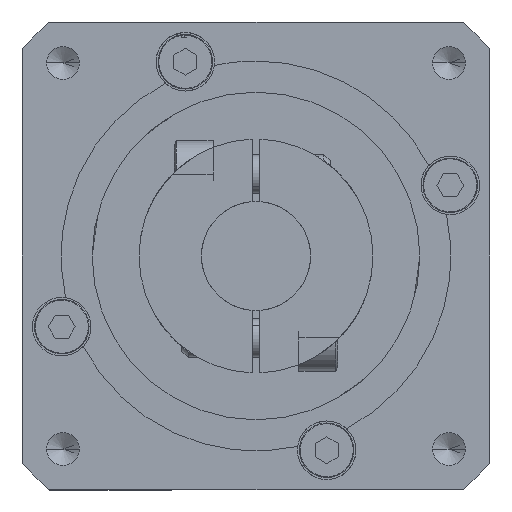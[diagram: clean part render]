
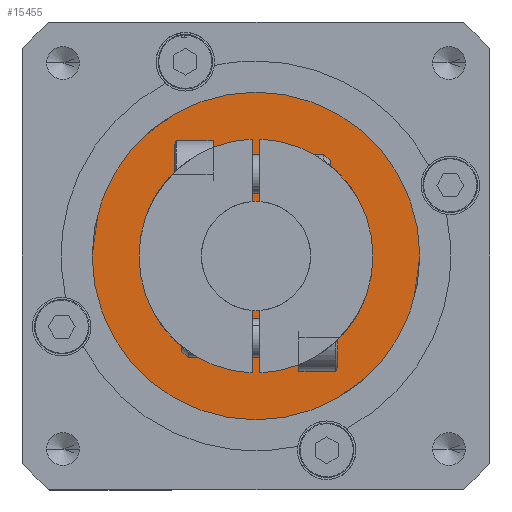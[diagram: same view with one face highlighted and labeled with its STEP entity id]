
A CAD part, front view. The second image highlights one B-rep face of the part: STEP entity #15455.
In plain terms, the highlighted planar face has unit normal (0, -1, 0).
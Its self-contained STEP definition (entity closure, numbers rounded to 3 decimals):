
#21 = CARTESIAN_POINT ( 'NONE',  ( 0., 11., 0. ) ) ;
#104 = CARTESIAN_POINT ( 'NONE',  ( 0., 11., 23. ) ) ;
#126 = CARTESIAN_POINT ( 'NONE',  ( 0., 11., -7. ) ) ;
#157 = CARTESIAN_POINT ( 'NONE',  ( -0.5, 11., -6.982 ) ) ;
#754 = VERTEX_POINT ( 'NONE', #3310 ) ;
#1443 = DIRECTION ( 'NONE',  ( 0., 0., -1. ) ) ;
#1770 = PLANE ( 'NONE',  #31036 ) ;
#2036 = DIRECTION ( 'NONE',  ( 0., -1., 0. ) ) ;
#2130 = LINE ( 'NONE', #15273, #21721 ) ;
#2155 = FACE_BOUND ( 'NONE', #3452, .T. ) ;
#2503 = DIRECTION ( 'NONE',  ( 0., 0., 1. ) ) ;
#2788 = VERTEX_POINT ( 'NONE', #15767 ) ;
#3157 = ORIENTED_EDGE ( 'NONE', *, *, #28688, .F. ) ;
#3310 = CARTESIAN_POINT ( 'NONE',  ( -0.5, 11., 6.982 ) ) ;
#3400 = ORIENTED_EDGE ( 'NONE', *, *, #17032, .F. ) ;
#3452 = EDGE_LOOP ( 'NONE', ( #3157, #3400, #9940, #22504, #24007, #8468, #7688, #22562, #7025, #24000 ) ) ;
#3534 = CARTESIAN_POINT ( 'NONE',  ( 0., 11., -23. ) ) ;
#3591 = CIRCLE ( 'NONE', #26910, 7. ) ;
#3724 = AXIS2_PLACEMENT_3D ( 'NONE', #27281, #12519, #29770 ) ;
#4224 = CARTESIAN_POINT ( 'NONE',  ( 0., 11., -23. ) ) ;
#4313 = EDGE_CURVE ( 'NONE', #24351, #26636, #23518, .T. ) ;
#4438 = ORIENTED_EDGE ( 'NONE', *, *, #4313, .F. ) ;
#5479 = EDGE_CURVE ( 'NONE', #31691, #16881, #3591, .T. ) ;
#5498 = DIRECTION ( 'NONE',  ( 0., 0., 1. ) ) ;
#5663 = EDGE_CURVE ( 'NONE', #21536, #23908, #26696, .T. ) ;
#5830 = VERTEX_POINT ( 'NONE', #27112 ) ;
#6017 = DIRECTION ( 'NONE',  ( 0., 0., -1. ) ) ;
#6221 = LINE ( 'NONE', #30902, #16193 ) ;
#6720 = DIRECTION ( 'NONE',  ( 0., 0., 1. ) ) ;
#6869 = CARTESIAN_POINT ( 'NONE',  ( 0., 11., 0. ) ) ;
#7025 = ORIENTED_EDGE ( 'NONE', *, *, #5479, .T. ) ;
#7208 = DIRECTION ( 'NONE',  ( 0., 1., 0. ) ) ;
#7688 = ORIENTED_EDGE ( 'NONE', *, *, #29073, .F. ) ;
#8118 = CARTESIAN_POINT ( 'NONE',  ( 0., 11., 7. ) ) ;
#8468 = ORIENTED_EDGE ( 'NONE', *, *, #25447, .F. ) ;
#8611 = CARTESIAN_POINT ( 'NONE',  ( 0.5, 11., 11.489 ) ) ;
#9044 = CARTESIAN_POINT ( 'NONE',  ( -0.5, 11., -23. ) ) ;
#9333 = DIRECTION ( 'NONE',  ( 0., 0., 1. ) ) ;
#9369 = EDGE_CURVE ( 'NONE', #754, #21536, #23077, .T. ) ;
#9525 = CARTESIAN_POINT ( 'NONE',  ( 0., 11., 0. ) ) ;
#9940 = ORIENTED_EDGE ( 'NONE', *, *, #9369, .T. ) ;
#11975 = DIRECTION ( 'NONE',  ( 0., 0., 1. ) ) ;
#11988 = EDGE_CURVE ( 'NONE', #31173, #31691, #12893, .T. ) ;
#12160 = CARTESIAN_POINT ( 'NONE',  ( 0., 11., 0. ) ) ;
#12519 = DIRECTION ( 'NONE',  ( 0., 1., 0. ) ) ;
#12597 = LINE ( 'NONE', #25726, #17609 ) ;
#12810 = ORIENTED_EDGE ( 'NONE', *, *, #13152, .F. ) ;
#12893 = CIRCLE ( 'NONE', #3724, 7. ) ;
#13152 = EDGE_CURVE ( 'NONE', #26636, #24351, #23015, .T. ) ;
#13637 = DIRECTION ( 'NONE',  ( 0., 1., 0. ) ) ;
#14318 = VERTEX_POINT ( 'NONE', #8611 ) ;
#14439 = FACE_OUTER_BOUND ( 'NONE', #25394, .T. ) ;
#14635 = DIRECTION ( 'NONE',  ( 0., 0., 1. ) ) ;
#15273 = CARTESIAN_POINT ( 'NONE',  ( -0.5, 11., -23. ) ) ;
#15455 = ADVANCED_FACE ( 'NONE', ( #14439, #2155 ), #1770, .F. ) ;
#15767 = CARTESIAN_POINT ( 'NONE',  ( 0.5, 11., -11.489 ) ) ;
#16193 = VECTOR ( 'NONE', #1443, 1000. ) ;
#16735 = CARTESIAN_POINT ( 'NONE',  ( 0., 11., 0. ) ) ;
#16881 = VERTEX_POINT ( 'NONE', #157 ) ;
#17032 = EDGE_CURVE ( 'NONE', #754, #25807, #2130, .T. ) ;
#17202 = DIRECTION ( 'NONE',  ( 0., 1., 0. ) ) ;
#17609 = VECTOR ( 'NONE', #6017, 1000. ) ;
#19214 = DIRECTION ( 'NONE',  ( 0., 0., 1. ) ) ;
#21422 = DIRECTION ( 'NONE',  ( 0., 1., 0. ) ) ;
#21536 = VERTEX_POINT ( 'NONE', #8118 ) ;
#21721 = VECTOR ( 'NONE', #5498, 1000. ) ;
#21795 = AXIS2_PLACEMENT_3D ( 'NONE', #21, #17202, #2503 ) ;
#21896 = CARTESIAN_POINT ( 'NONE',  ( 0., 11., 0. ) ) ;
#22504 = ORIENTED_EDGE ( 'NONE', *, *, #5663, .T. ) ;
#22525 = EDGE_CURVE ( 'NONE', #5830, #16881, #24640, .T. ) ;
#22562 = ORIENTED_EDGE ( 'NONE', *, *, #11988, .T. ) ;
#22979 = AXIS2_PLACEMENT_3D ( 'NONE', #28410, #13637, #30885 ) ;
#23015 = CIRCLE ( 'NONE', #27077, 23. ) ;
#23077 = CIRCLE ( 'NONE', #21795, 7. ) ;
#23518 = CIRCLE ( 'NONE', #25002, 23. ) ;
#23908 = VERTEX_POINT ( 'NONE', #27870 ) ;
#23951 = CIRCLE ( 'NONE', #30586, 11.5 ) ;
#24000 = ORIENTED_EDGE ( 'NONE', *, *, #22525, .F. ) ;
#24007 = ORIENTED_EDGE ( 'NONE', *, *, #24036, .F. ) ;
#24036 = EDGE_CURVE ( 'NONE', #14318, #23908, #12597, .T. ) ;
#24077 = DIRECTION ( 'NONE',  ( 0., 1., 0. ) ) ;
#24351 = VERTEX_POINT ( 'NONE', #104 ) ;
#24416 = DIRECTION ( 'NONE',  ( 0., 0., 1. ) ) ;
#24640 = LINE ( 'NONE', #9044, #25424 ) ;
#24997 = AXIS2_PLACEMENT_3D ( 'NONE', #16735, #2036, #19214 ) ;
#25002 = AXIS2_PLACEMENT_3D ( 'NONE', #21896, #7208, #24416 ) ;
#25394 = EDGE_LOOP ( 'NONE', ( #4438, #12810 ) ) ;
#25424 = VECTOR ( 'NONE', #26274, 1000. ) ;
#25447 = EDGE_CURVE ( 'NONE', #2788, #14318, #31816, .T. ) ;
#25726 = CARTESIAN_POINT ( 'NONE',  ( 0.5, 11., -23. ) ) ;
#25807 = VERTEX_POINT ( 'NONE', #28127 ) ;
#26274 = DIRECTION ( 'NONE',  ( 0., 0., 1. ) ) ;
#26636 = VERTEX_POINT ( 'NONE', #3534 ) ;
#26696 = CIRCLE ( 'NONE', #22979, 7. ) ;
#26739 = DIRECTION ( 'NONE',  ( 0., -1., 0. ) ) ;
#26910 = AXIS2_PLACEMENT_3D ( 'NONE', #12160, #29403, #14635 ) ;
#27077 = AXIS2_PLACEMENT_3D ( 'NONE', #6869, #24077, #9333 ) ;
#27112 = CARTESIAN_POINT ( 'NONE',  ( -0.5, 11., -11.489 ) ) ;
#27281 = CARTESIAN_POINT ( 'NONE',  ( 0., 11., 0. ) ) ;
#27870 = CARTESIAN_POINT ( 'NONE',  ( 0.5, 11., 6.982 ) ) ;
#28127 = CARTESIAN_POINT ( 'NONE',  ( -0.5, 11., 11.489 ) ) ;
#28410 = CARTESIAN_POINT ( 'NONE',  ( 0., 11., 0. ) ) ;
#28688 = EDGE_CURVE ( 'NONE', #25807, #5830, #23951, .T. ) ;
#29073 = EDGE_CURVE ( 'NONE', #31173, #2788, #6221, .T. ) ;
#29403 = DIRECTION ( 'NONE',  ( 0., 1., 0. ) ) ;
#29770 = DIRECTION ( 'NONE',  ( 0., 0., 1. ) ) ;
#30260 = CARTESIAN_POINT ( 'NONE',  ( 0.5, 11., -6.982 ) ) ;
#30586 = AXIS2_PLACEMENT_3D ( 'NONE', #9525, #26739, #11975 ) ;
#30885 = DIRECTION ( 'NONE',  ( 0., 0., 1. ) ) ;
#30902 = CARTESIAN_POINT ( 'NONE',  ( 0.5, 11., -23. ) ) ;
#31036 = AXIS2_PLACEMENT_3D ( 'NONE', #4224, #21422, #6720 ) ;
#31173 = VERTEX_POINT ( 'NONE', #30260 ) ;
#31691 = VERTEX_POINT ( 'NONE', #126 ) ;
#31816 = CIRCLE ( 'NONE', #24997, 11.5 ) ;
